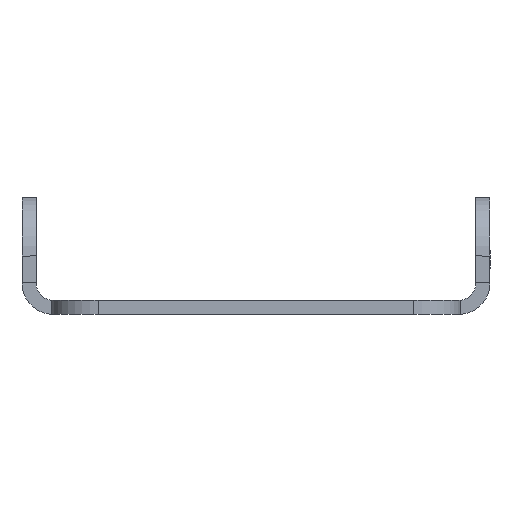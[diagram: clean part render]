
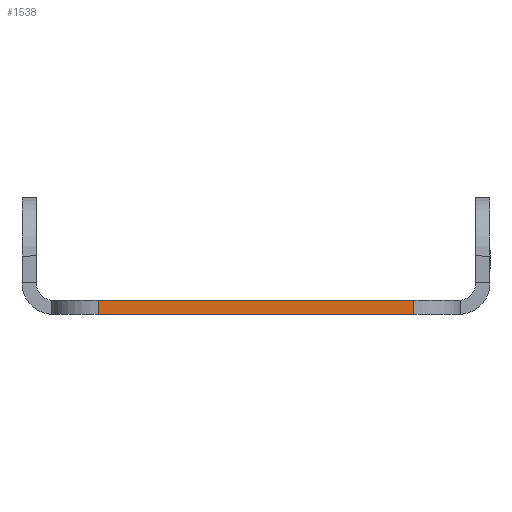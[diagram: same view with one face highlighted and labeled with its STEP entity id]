
A CAD part, front view. The second image highlights one B-rep face of the part: STEP entity #1538.
In plain terms, the highlighted planar face has unit normal (0, -1, 0).
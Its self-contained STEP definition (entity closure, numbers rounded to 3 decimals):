
#25 = CARTESIAN_POINT ( 'NONE',  ( 13.5, -80.5, -1.2 ) ) ;
#41 = VECTOR ( 'NONE', #1466, 1000. ) ;
#42 = EDGE_CURVE ( 'NONE', #1381, #427, #868, .T. ) ;
#75 = DIRECTION ( 'NONE',  ( 0., 0., -1. ) ) ;
#91 = CARTESIAN_POINT ( 'NONE',  ( -17.5, -80.5, 0. ) ) ;
#129 = LINE ( 'NONE', #91, #252 ) ;
#188 = CARTESIAN_POINT ( 'NONE',  ( 13.5, -80.5, 0. ) ) ;
#240 = ORIENTED_EDGE ( 'NONE', *, *, #531, .F. ) ;
#252 = VECTOR ( 'NONE', #1039, 1000. ) ;
#315 = FACE_OUTER_BOUND ( 'NONE', #746, .T. ) ;
#427 = VERTEX_POINT ( 'NONE', #188 ) ;
#531 = EDGE_CURVE ( 'NONE', #1274, #427, #129, .T. ) ;
#556 = CARTESIAN_POINT ( 'NONE',  ( -13.5, -80.5, 0. ) ) ;
#626 = PLANE ( 'NONE',  #1342 ) ;
#642 = LINE ( 'NONE', #656, #1058 ) ;
#656 = CARTESIAN_POINT ( 'NONE',  ( -17.5, -80.5, -1.2 ) ) ;
#746 = EDGE_LOOP ( 'NONE', ( #785, #1527, #240, #871 ) ) ;
#785 = ORIENTED_EDGE ( 'NONE', *, *, #1165, .T. ) ;
#856 = CARTESIAN_POINT ( 'NONE',  ( -13.5, -80.5, -1.2 ) ) ;
#868 = LINE ( 'NONE', #1460, #41 ) ;
#871 = ORIENTED_EDGE ( 'NONE', *, *, #1730, .T. ) ;
#1039 = DIRECTION ( 'NONE',  ( 1., 0., 0. ) ) ;
#1058 = VECTOR ( 'NONE', #1453, 1000. ) ;
#1076 = CARTESIAN_POINT ( 'NONE',  ( -13.5, -80.5, -1.2 ) ) ;
#1156 = DIRECTION ( 'NONE',  ( 0., -1., 0. ) ) ;
#1165 = EDGE_CURVE ( 'NONE', #1346, #1381, #642, .T. ) ;
#1169 = CARTESIAN_POINT ( 'NONE',  ( -17.5, -80.5, -1.2 ) ) ;
#1189 = VECTOR ( 'NONE', #1345, 1000. ) ;
#1274 = VERTEX_POINT ( 'NONE', #556 ) ;
#1290 = LINE ( 'NONE', #1076, #1189 ) ;
#1342 = AXIS2_PLACEMENT_3D ( 'NONE', #1169, #1156, #75 ) ;
#1345 = DIRECTION ( 'NONE',  ( 0., 0., -1. ) ) ;
#1346 = VERTEX_POINT ( 'NONE', #856 ) ;
#1381 = VERTEX_POINT ( 'NONE', #25 ) ;
#1453 = DIRECTION ( 'NONE',  ( 1., 0., 0. ) ) ;
#1460 = CARTESIAN_POINT ( 'NONE',  ( 13.5, -80.5, -1.2 ) ) ;
#1466 = DIRECTION ( 'NONE',  ( 0., 0., 1. ) ) ;
#1527 = ORIENTED_EDGE ( 'NONE', *, *, #42, .T. ) ;
#1538 = ADVANCED_FACE ( 'NONE', ( #315 ), #626, .T. ) ;
#1730 = EDGE_CURVE ( 'NONE', #1274, #1346, #1290, .T. ) ;
